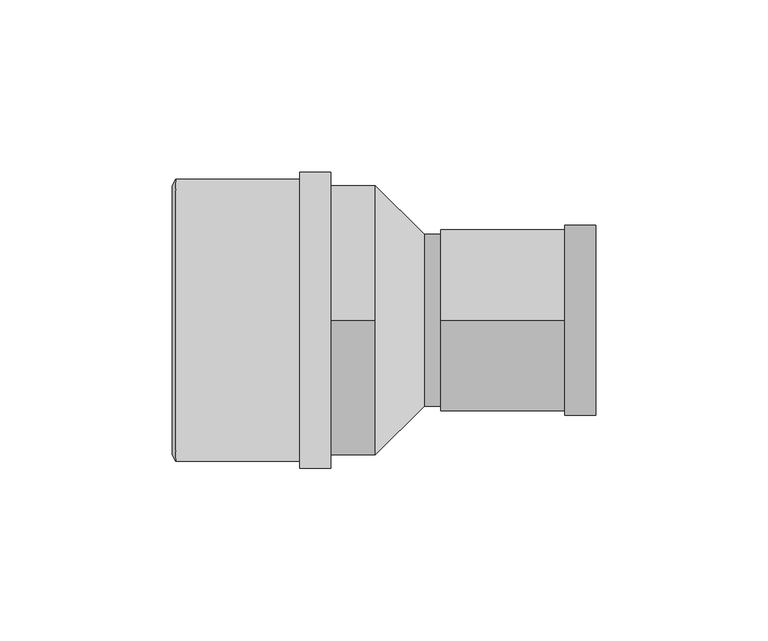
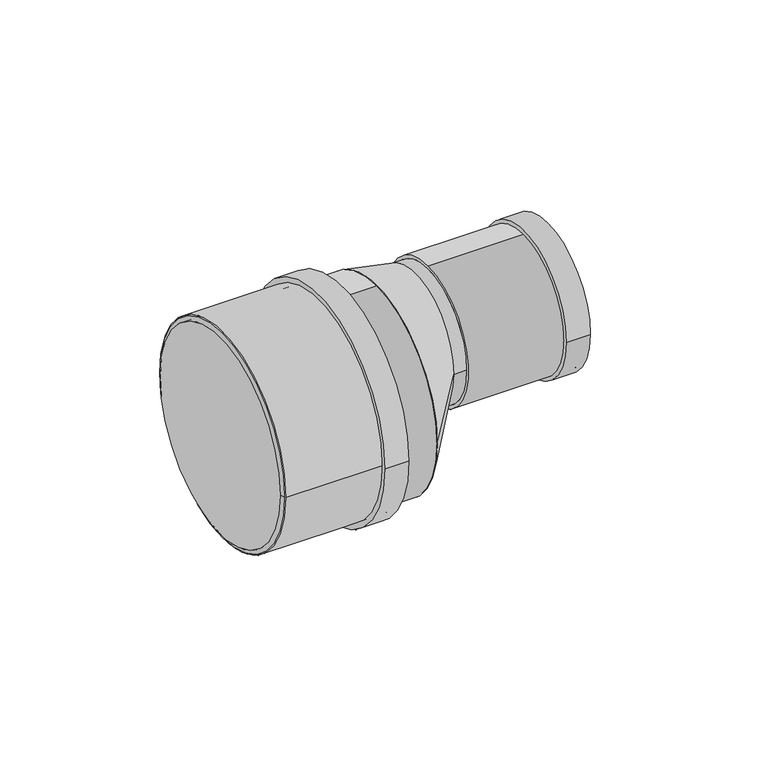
"""IFC4 building model written with IfcOpenShell, lengths in millimetres: pipe fitting geometry, Superdrain SK Reduction to HT : Superdrain SK Reduction to HT."""

from ifc_helpers import new_model, si_unit, point, frame, frame_2d, origin, origin_2d, place, context, project, spatial, polyline, circle_curve, trimmed, segment, composite_curve, outline, extrude, source, transform, mapped, element, save
from ifc_brep_helpers import plane_surface, revolved_surface, spline_surface, advanced_brep


def pipe_fitting_301cb6e2(model_context):
    return source(origin(), model_context, "Body", "SolidModel", [
        extrude(outline(composite_curve([segment(trimmed(circle_curve(frame_2d((0.0, 0.1450234)), 40.95), [point((40.95, 0.1450234))], [point((-40.95, 0.1450234))], False, "CARTESIAN"), True, "CONTINUOUS"), segment(trimmed(circle_curve(frame_2d((0.0, 0.1450234)), 40.95), [point((-40.95, 0.1450234))], [point((40.95, 0.1450234))], False, "CARTESIAN"), True, "CONTINUOUS")], self_intersect=False), holes=[composite_curve([segment(trimmed(circle_curve(frame_2d((0.0, 0.1450234)), 39.0), [point((39.0, 0.1450234))], [point((-39.0, 0.1450234))], True, "CARTESIAN"), True, "CONTINUOUS"), segment(trimmed(circle_curve(frame_2d((0.0, 0.1450234)), 39.0), [point((-39.0, 0.1450234))], [point((39.0, 0.1450234))], True, "CARTESIAN"), True, "CONTINUOUS")], self_intersect=False)]), frame((-58.0, 0.0, 0.0), z_axis=(1.0, 0.0, 0.0), x_axis=(0.0, 1.0, 0.0)), (0.0, 0.0, 1.0), 45.0),
        extrude(outline(composite_curve([segment(trimmed(circle_curve(frame_2d((0.0, 0.1450234)), 42.9975), [point((42.9975, 0.1450234))], [point((-42.9975, 0.1450234))], False, "CARTESIAN"), True, "CONTINUOUS"), segment(trimmed(circle_curve(frame_2d((0.0, 0.1450234)), 42.9975), [point((-42.9975, 0.1450234))], [point((42.9975, 0.1450234))], False, "CARTESIAN"), True, "CONTINUOUS")], self_intersect=False), holes=[composite_curve([segment(trimmed(circle_curve(frame_2d((0.0, 0.1450234)), 39.0), [point((39.0, 0.1450234))], [point((-39.0, 0.1450234))], True, "CARTESIAN"), True, "CONTINUOUS"), segment(trimmed(circle_curve(frame_2d((0.0, 0.1450234)), 39.0), [point((-39.0, 0.1450234))], [point((39.0, 0.1450234))], True, "CARTESIAN"), True, "CONTINUOUS")], self_intersect=False)]), frame((-22.0, 0.0, 0.0), z_axis=(1.0, 0.0, 0.0), x_axis=(0.0, 1.0, 0.0)), (0.0, 0.0, 1.0), 9.0),
        advanced_brep(
        [(-59.0, 39.0, 0.1450234), (-59.0, -39.0, 0.1450234), (-58.0, 40.95, 0.1450234), (-58.0, -40.95, 0.1450234)],
        [
            (0, 1, circle_curve(frame((-59.0, 0.0, 0.1450234), z_axis=(-1.0, 0.0, 0.0), x_axis=(0.0, 1.0, 0.0)), 39.0)),
            (1, 0, circle_curve(frame((-59.0, 0.0, 0.1450234), z_axis=(-1.0, 0.0, 0.0), x_axis=(0.0, -1.0, 0.0)), 39.0)),
            (2, 3, circle_curve(frame((-58.0, 0.0, 0.1450234), z_axis=(1.0, 0.0, 0.0), x_axis=(0.0, -1.0, 0.0)), 40.95)),
            (3, 2, circle_curve(frame((-58.0, 0.0, 0.1450234), z_axis=(1.0, 0.0, 0.0), x_axis=(0.0, 1.0, 0.0)), 40.95)),
            (3, 1),
            (0, 2),
        ],
        [
            plane_surface(frame((-59.0, 0.0, 0.1450234), z_axis=(-1.0, 0.0, 0.0), x_axis=(0.0, 0.0, -1.0))),
            plane_surface(frame((-58.0, 0.0, 0.1450234), z_axis=(1.0, 0.0, 0.0), x_axis=(0.0, 0.0, -1.0))),
            revolved_surface(polyline([(-59.0, 39.0, 0.1450234), (-58.0, 40.95, 0.1450234)]), (-79.0, 0.0, 0.1450234), (1.0, 0.0, 0.0)),
            revolved_surface(polyline([(-59.0, -39.0, 0.1450234), (-58.0, -40.95, 0.1450234)]), (-79.0, 0.0, 0.1450234), (1.0, 0.0, 0.0)),
        ],
        [
            (0, [[1, 2]]),
            (1, [[3, 4]]),
            (2, [[-4, 5, -1, 6]]),
            (3, [[-3, -6, -2, -5]]),
        ],
    ),
        advanced_brep(
        [(14.25, -25.0, 14.0), (14.25, 25.0, 14.0), (0.0, -39.0, 0.0), (0.0, 39.0, 0.0)],
        [
            (0, 1, circle_curve(frame((14.25, 0.0, 14.0), z_axis=(1.0, 0.0, 0.0), x_axis=(0.0, 1.0, 0.0)), 25.0)),
            (1, 0, circle_curve(frame((14.25, 0.0, 14.0), z_axis=(1.0, 0.0, 0.0), x_axis=(0.0, 1.0, 0.0)), 25.0)),
            (2, 3, circle_curve(frame((0.0, 0.0, 0.0), z_axis=(-1.0, 0.0, 0.0), x_axis=(0.0, 1.0, 0.0)), 39.0)),
            (3, 2, circle_curve(frame((0.0, 0.0, 0.0), z_axis=(-1.0, 0.0, 0.0), x_axis=(0.0, 1.0, 0.0)), 39.0)),
            (3, 1),
            (0, 2),
        ],
        [
            plane_surface(frame((14.25, 0.0, 14.0), z_axis=(1.0, 0.0, 0.0), x_axis=(0.0, 0.0, -1.0))),
            plane_surface(frame((0.0, 0.0, 0.0), z_axis=(-1.0, 0.0, 0.0), x_axis=(0.0, 0.0, -1.0))),
            spline_surface(2, 1, [[(0.0, -39.0, 0.0), (14.25, -25.0, 14.0)], [(0.0, -39.0, -39.0), (14.25, -25.0, -11.0)], [(0.0, 0.0, -39.0), (14.25, 0.0, -11.0)], [(0.0, 39.0, -39.0), (14.25, 25.0, -11.0)], [(0.0, 39.0, 0.0), (14.25, 25.0, 14.0)]], [3, 2, 3], [2, 2], [0.0, 1.0, 2.0], [0.0, 1.0], weights=[[1.0, 1.0], [0.7071067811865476, 0.7071067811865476], [1.0, 1.0], [0.7071067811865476, 0.7071067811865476], [1.0, 1.0]]),
            spline_surface(2, 1, [[(0.0, 39.0, 0.0), (14.25, 25.0, 14.0)], [(0.0, 39.0, 39.0), (14.25, 25.0, 39.0)], [(0.0, 0.0, 39.0), (14.25, 0.0, 39.0)], [(0.0, -39.0, 39.0), (14.25, -25.0, 39.0)], [(0.0, -39.0, 0.0), (14.25, -25.0, 14.0)]], [3, 2, 3], [2, 2], [0.0, 1.0, 2.0], [0.0, 1.0], weights=[[1.0, 1.0], [0.7071067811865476, 0.7071067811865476], [1.0, 1.0], [0.7071067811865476, 0.7071067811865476], [1.0, 1.0]]),
        ],
        [
            (0, [[1, 2]]),
            (1, [[3, 4]]),
            (2, [[-4, 5, -1, 6]]),
            (3, [[-3, -6, -2, -5]]),
        ],
    ),
        extrude(outline(composite_curve([segment(trimmed(circle_curve(frame_2d((0.0, 14.0)), 25.0), [point((-25.0, 14.0))], [point((25.0, 14.0))], False, "CARTESIAN"), True, "CONTINUOUS"), segment(trimmed(circle_curve(frame_2d((0.0, 14.0)), 25.0), [point((25.0, 14.0))], [point((-25.0, 14.0))], False, "CARTESIAN"), True, "CONTINUOUS")], self_intersect=False)), frame((14.25, 0.0, 0.0), z_axis=(1.0, 0.0, 0.0), x_axis=(0.0, 1.0, 0.0)), (0.0, 0.0, 1.0), 4.75),
        extrude(outline(composite_curve([segment(trimmed(circle_curve(frame_2d((0.0, 14.0)), 27.5625), [point((-27.5625, 14.0))], [point((27.5625, 14.0))], False, "CARTESIAN"), True, "CONTINUOUS"), segment(trimmed(circle_curve(frame_2d((0.0, 14.0)), 27.5625), [point((27.5625, 14.0))], [point((-27.5625, 14.0))], False, "CARTESIAN"), True, "CONTINUOUS")], self_intersect=False), holes=[composite_curve([segment(trimmed(circle_curve(frame_2d((0.0, 14.0)), 25.0), [point((25.0, 14.0))], [point((-25.0, 14.0))], True, "CARTESIAN"), True, "CONTINUOUS"), segment(trimmed(circle_curve(frame_2d((0.0, 14.0)), 25.0), [point((-25.0, 14.0))], [point((25.0, 14.0))], True, "CARTESIAN"), True, "CONTINUOUS")], self_intersect=False)]), frame((55.0, 0.0, 0.0), z_axis=(1.0, 0.0, 0.0), x_axis=(0.0, 1.0, 0.0)), (0.0, 0.0, 1.0), 9.0),
        extrude(outline(composite_curve([segment(trimmed(circle_curve(frame_2d((0.0, 14.0)), 26.25), [point((0.0, 40.25))], [point((0.0, -12.25))], False, "CARTESIAN"), True, "CONTINUOUS"), segment(trimmed(circle_curve(frame_2d((0.0, 14.0)), 26.25), [point((0.0, -12.25))], [point((0.0, 40.25))], False, "CARTESIAN"), True, "CONTINUOUS")], self_intersect=False), holes=[composite_curve([segment(trimmed(circle_curve(frame_2d((0.0, 14.0)), 25.0), [point((25.0, 14.0))], [point((-25.0, 14.0))], True, "CARTESIAN"), True, "CONTINUOUS"), segment(trimmed(circle_curve(frame_2d((0.0, 14.0)), 25.0), [point((-25.0, 14.0))], [point((25.0, 14.0))], True, "CARTESIAN"), True, "CONTINUOUS")], self_intersect=False)]), frame((19.0, 0.0, 0.0), z_axis=(1.0, 0.0, 0.0), x_axis=(0.0, 1.0, 0.0)), (0.0, 0.0, 1.0), 45.0),
        extrude(outline(composite_curve([segment(trimmed(circle_curve(origin_2d(), 39.0), [point((0.0, 39.0))], [point((0.0, -39.0))], False, "CARTESIAN"), True, "CONTINUOUS"), segment(trimmed(circle_curve(origin_2d(), 39.0), [point((0.0, -39.0))], [point((0.0, 39.0))], False, "CARTESIAN"), True, "CONTINUOUS")], self_intersect=False)), frame((-58.0, 0.0, 0.0), z_axis=(1.0, 0.0, 0.0), x_axis=(0.0, 1.0, 0.0)), (0.0, 0.0, 1.0), 58.0),
    ])


if __name__ == "__main__":
    model = new_model("IFC4")
    model_context = context("Model", 3, world=origin())
    ifc_project = project(units=[si_unit("LENGTHUNIT", "METRE", prefix="MILLI")], contexts=[model_context])
    site = spatial("IfcSite", under=ifc_project)
    building = spatial("IfcBuilding", under=site)
    placement = place(None, origin())
    pipe_fitting_shape = pipe_fitting_301cb6e2(model_context)
    element("IfcPipeFitting", 1, ObjectType="Superdrain SK Reduction to HT : Superdrain SK Reduction to HT", at=placement, inside=building, context=model_context, shape_type="MappedRepresentation", body=[
        mapped(pipe_fitting_shape, transform((0.0, 0.0, 0.0), x_axis=(1.0, 0.0, 0.0), y_axis=(0.0, 1.0, 0.0), z_axis=(0.0, 0.0, 1.0))),
    ])
    save(model, "model.ifc")
